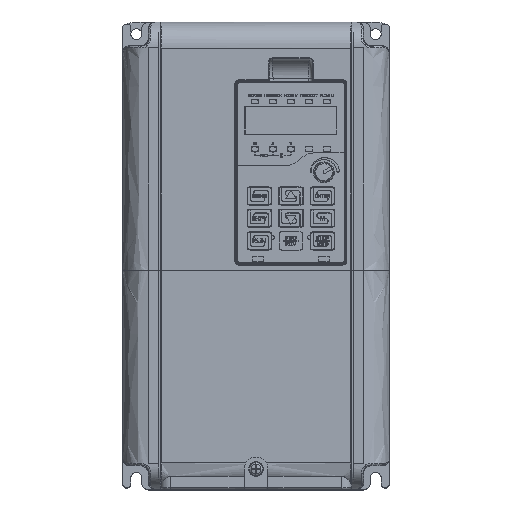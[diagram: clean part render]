
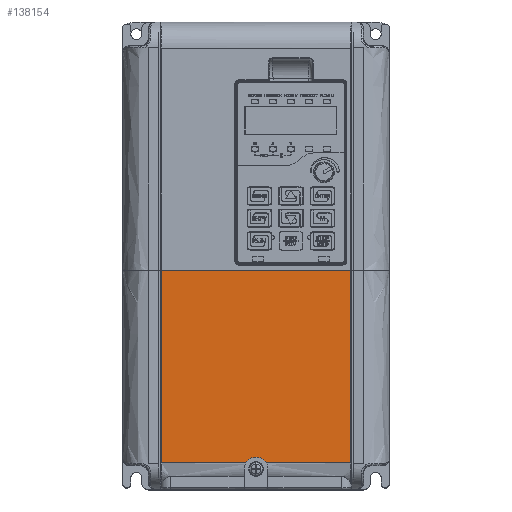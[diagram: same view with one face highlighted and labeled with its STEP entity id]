
A CAD part, top view. The second image highlights one B-rep face of the part: STEP entity #138154.
In plain terms, the highlighted planar face has unit normal (0, 0, 1).
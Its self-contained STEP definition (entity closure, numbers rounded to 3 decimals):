
#1564 = AXIS2_PLACEMENT_3D ( 'NONE', #128846, #103471, #19451 ) ;
#2412 = CARTESIAN_POINT ( 'NONE',  ( 5.6, -113.5, 171.5 ) ) ;
#4538 = VECTOR ( 'NONE', #112854, 1000. ) ;
#5118 = LINE ( 'NONE', #17765, #4538 ) ;
#5274 = DIRECTION ( 'NONE',  ( 0., -1., 0. ) ) ;
#5659 = CARTESIAN_POINT ( 'NONE',  ( 51.905, -113.5, 171.5 ) ) ;
#8686 = CARTESIAN_POINT ( 'NONE',  ( 69., -113.5, 171.5 ) ) ;
#17765 = CARTESIAN_POINT ( 'NONE',  ( 51.905, 111., 171.5 ) ) ;
#19451 = DIRECTION ( 'NONE',  ( 1., 0., 0. ) ) ;
#29033 = LINE ( 'NONE', #29806, #128927 ) ;
#29806 = CARTESIAN_POINT ( 'NONE',  ( -51.905, 111., 171.5 ) ) ;
#30934 = CARTESIAN_POINT ( 'NONE',  ( -51.905, -113.5, 171.5 ) ) ;
#33036 = VERTEX_POINT ( 'NONE', #152984 ) ;
#36163 = ORIENTED_EDGE ( 'NONE', *, *, #104497, .T. ) ;
#40377 = EDGE_CURVE ( 'NONE', #82593, #104884, #5118, .T. ) ;
#45277 = EDGE_LOOP ( 'NONE', ( #153251, #36163, #101063, #111904, #93659, #106738 ) ) ;
#49193 = DIRECTION ( 'NONE',  ( 1., 0., 0. ) ) ;
#50408 = CARTESIAN_POINT ( 'NONE',  ( 0., -116.8, 171.5 ) ) ;
#51263 = FACE_OUTER_BOUND ( 'NONE', #45277, .T. ) ;
#56710 = CARTESIAN_POINT ( 'NONE',  ( -51.905, -8.3, 171.5 ) ) ;
#57569 = DIRECTION ( 'NONE',  ( -1., 0., 0. ) ) ;
#67347 = VECTOR ( 'NONE', #49193, 1000. ) ;
#70983 = CARTESIAN_POINT ( 'NONE',  ( 69., -8.3, 171.5 ) ) ;
#75418 = VERTEX_POINT ( 'NONE', #2412 ) ;
#82091 = LINE ( 'NONE', #70983, #128596 ) ;
#82593 = VERTEX_POINT ( 'NONE', #5659 ) ;
#88518 = EDGE_CURVE ( 'NONE', #75418, #82593, #94223, .T. ) ;
#88817 = EDGE_CURVE ( 'NONE', #33036, #75418, #138078, .T. ) ;
#89561 = EDGE_CURVE ( 'NONE', #148894, #33036, #99070, .T. ) ;
#93140 = EDGE_CURVE ( 'NONE', #137365, #148894, #29033, .T. ) ;
#93659 = ORIENTED_EDGE ( 'NONE', *, *, #88817, .T. ) ;
#94223 = LINE ( 'NONE', #8686, #132848 ) ;
#96349 = DIRECTION ( 'NONE',  ( -1., 0., 0. ) ) ;
#98812 = PLANE ( 'NONE',  #1564 ) ;
#99070 = LINE ( 'NONE', #147478, #67347 ) ;
#101063 = ORIENTED_EDGE ( 'NONE', *, *, #93140, .T. ) ;
#103471 = DIRECTION ( 'NONE',  ( 0., 0., 1. ) ) ;
#104497 = EDGE_CURVE ( 'NONE', #104884, #137365, #82091, .T. ) ;
#104884 = VERTEX_POINT ( 'NONE', #154832 ) ;
#106738 = ORIENTED_EDGE ( 'NONE', *, *, #88518, .T. ) ;
#109014 = DIRECTION ( 'NONE',  ( 0., 0., -1. ) ) ;
#111904 = ORIENTED_EDGE ( 'NONE', *, *, #89561, .T. ) ;
#112854 = DIRECTION ( 'NONE',  ( 0., 1., 0. ) ) ;
#125364 = AXIS2_PLACEMENT_3D ( 'NONE', #50408, #109014, #96349 ) ;
#128596 = VECTOR ( 'NONE', #57569, 1000. ) ;
#128846 = CARTESIAN_POINT ( 'NONE',  ( 69., 111., 171.5 ) ) ;
#128927 = VECTOR ( 'NONE', #5274, 1000. ) ;
#130710 = DIRECTION ( 'NONE',  ( 1., 0., 0. ) ) ;
#132848 = VECTOR ( 'NONE', #130710, 1000. ) ;
#137365 = VERTEX_POINT ( 'NONE', #56710 ) ;
#138078 = CIRCLE ( 'NONE', #125364, 6.5 ) ;
#138154 = ADVANCED_FACE ( 'NONE', ( #51263 ), #98812, .T. ) ;
#147478 = CARTESIAN_POINT ( 'NONE',  ( 69., -113.5, 171.5 ) ) ;
#148894 = VERTEX_POINT ( 'NONE', #30934 ) ;
#152984 = CARTESIAN_POINT ( 'NONE',  ( -5.6, -113.5, 171.5 ) ) ;
#153251 = ORIENTED_EDGE ( 'NONE', *, *, #40377, .T. ) ;
#154832 = CARTESIAN_POINT ( 'NONE',  ( 51.905, -8.3, 171.5 ) ) ;
